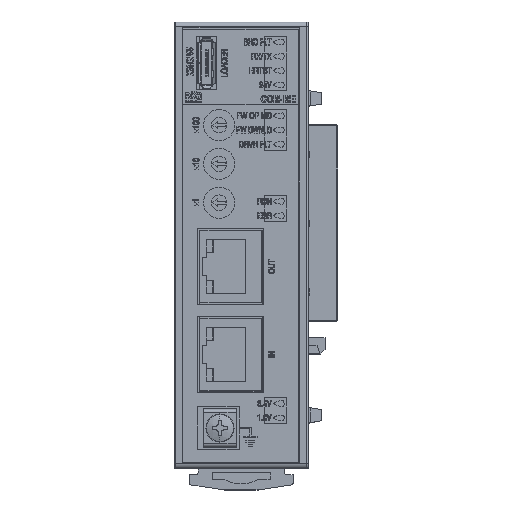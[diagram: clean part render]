
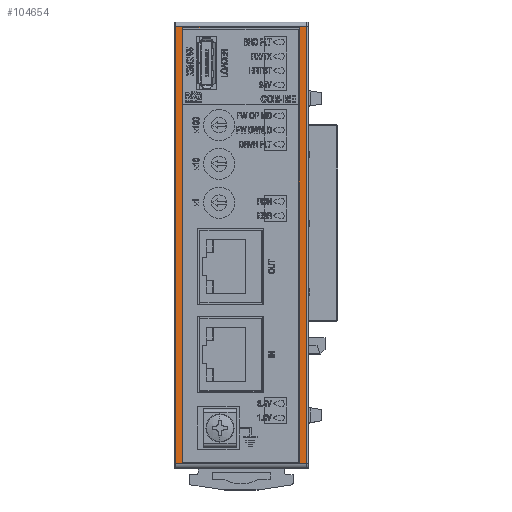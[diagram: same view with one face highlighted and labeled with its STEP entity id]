
A CAD part, top view. The second image highlights one B-rep face of the part: STEP entity #104654.
In plain terms, the highlighted planar face has unit normal (0, 0, 1).
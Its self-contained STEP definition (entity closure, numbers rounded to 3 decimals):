
#1578 = LINE ( 'NONE', #3509, #84479 ) ;
#2283 = EDGE_CURVE ( 'NONE', #33340, #67796, #137298, .T. ) ;
#3509 = CARTESIAN_POINT ( 'NONE',  ( -49.429, -54.921, 76.404 ) ) ;
#6230 = ORIENTED_EDGE ( 'NONE', *, *, #141500, .T. ) ;
#6498 = ORIENTED_EDGE ( 'NONE', *, *, #85931, .T. ) ;
#7221 = LINE ( 'NONE', #125982, #46005 ) ;
#8172 = DIRECTION ( 'NONE',  ( 0., 0., 1. ) ) ;
#10827 = LINE ( 'NONE', #40364, #101113 ) ;
#12200 = DIRECTION ( 'NONE',  ( 1., 0., 0. ) ) ;
#12469 = CARTESIAN_POINT ( 'NONE',  ( -21.629, -55.221, 76.404 ) ) ;
#13734 = CARTESIAN_POINT ( 'NONE',  ( -21.379, -55.221, 76.404 ) ) ;
#14328 = EDGE_CURVE ( 'NONE', #61245, #139039, #10827, .T. ) ;
#15270 = CARTESIAN_POINT ( 'NONE',  ( -21.629, 42.779, 76.404 ) ) ;
#18161 = VECTOR ( 'NONE', #132055, 1000. ) ;
#20745 = VERTEX_POINT ( 'NONE', #32009 ) ;
#24802 = CARTESIAN_POINT ( 'NONE',  ( -51.129, 42.779, 76.404 ) ) ;
#27741 = LINE ( 'NONE', #13734, #47991 ) ;
#29866 = CARTESIAN_POINT ( 'NONE',  ( -49.429, 42.479, 76.404 ) ) ;
#32009 = CARTESIAN_POINT ( 'NONE',  ( -49.429, -54.921, 76.404 ) ) ;
#32144 = EDGE_CURVE ( 'NONE', #139039, #51593, #27741, .T. ) ;
#33340 = VERTEX_POINT ( 'NONE', #29866 ) ;
#40364 = CARTESIAN_POINT ( 'NONE',  ( -51.129, -55.221, 76.404 ) ) ;
#40365 = LINE ( 'NONE', #120183, #18161 ) ;
#42430 = CARTESIAN_POINT ( 'NONE',  ( -51.379, 42.779, 76.404 ) ) ;
#46005 = VECTOR ( 'NONE', #68862, 1000. ) ;
#46828 = ORIENTED_EDGE ( 'NONE', *, *, #32144, .T. ) ;
#47089 = VECTOR ( 'NONE', #60006, 1000. ) ;
#47991 = VECTOR ( 'NONE', #12200, 1000. ) ;
#49053 = EDGE_LOOP ( 'NONE', ( #105969, #6498, #6230, #49629 ) ) ;
#49486 = VECTOR ( 'NONE', #143711, 1000. ) ;
#49629 = ORIENTED_EDGE ( 'NONE', *, *, #61585, .T. ) ;
#51593 = VERTEX_POINT ( 'NONE', #12469 ) ;
#53091 = ORIENTED_EDGE ( 'NONE', *, *, #14328, .T. ) ;
#60006 = DIRECTION ( 'NONE',  ( 1., 0., 0. ) ) ;
#60431 = CARTESIAN_POINT ( 'NONE',  ( -23.329, 42.479, 76.404 ) ) ;
#61245 = VERTEX_POINT ( 'NONE', #24802 ) ;
#61585 = EDGE_CURVE ( 'NONE', #20745, #33340, #1578, .T. ) ;
#64389 = AXIS2_PLACEMENT_3D ( 'NONE', #66912, #8172, #65397 ) ;
#65082 = FACE_BOUND ( 'NONE', #49053, .T. ) ;
#65397 = DIRECTION ( 'NONE',  ( 1., 0., 0. ) ) ;
#66912 = CARTESIAN_POINT ( 'NONE',  ( -51.379, -56.221, 76.404 ) ) ;
#67350 = EDGE_CURVE ( 'NONE', #51593, #103201, #114761, .T. ) ;
#67796 = VERTEX_POINT ( 'NONE', #60431 ) ;
#68862 = DIRECTION ( 'NONE',  ( 0., -1., 0. ) ) ;
#76337 = DIRECTION ( 'NONE',  ( 0., -1., 0. ) ) ;
#77718 = PLANE ( 'NONE',  #64389 ) ;
#83591 = ORIENTED_EDGE ( 'NONE', *, *, #102996, .T. ) ;
#84479 = VECTOR ( 'NONE', #132235, 1000. ) ;
#85931 = EDGE_CURVE ( 'NONE', #67796, #130470, #7221, .T. ) ;
#93073 = CARTESIAN_POINT ( 'NONE',  ( -23.329, -54.921, 76.404 ) ) ;
#96580 = EDGE_LOOP ( 'NONE', ( #83591, #53091, #46828, #116282 ) ) ;
#97619 = DIRECTION ( 'NONE',  ( 0., 1., 0. ) ) ;
#99199 = LINE ( 'NONE', #42430, #49486 ) ;
#101113 = VECTOR ( 'NONE', #76337, 1000. ) ;
#102996 = EDGE_CURVE ( 'NONE', #103201, #61245, #99199, .T. ) ;
#103201 = VERTEX_POINT ( 'NONE', #147122 ) ;
#104654 = ADVANCED_FACE ( 'NONE', ( #109204, #65082 ), #77718, .T. ) ;
#105969 = ORIENTED_EDGE ( 'NONE', *, *, #2283, .T. ) ;
#109204 = FACE_OUTER_BOUND ( 'NONE', #96580, .T. ) ;
#114761 = LINE ( 'NONE', #15270, #146138 ) ;
#116282 = ORIENTED_EDGE ( 'NONE', *, *, #67350, .T. ) ;
#119155 = CARTESIAN_POINT ( 'NONE',  ( -49.429, 42.479, 76.404 ) ) ;
#120183 = CARTESIAN_POINT ( 'NONE',  ( -23.329, -54.921, 76.404 ) ) ;
#125982 = CARTESIAN_POINT ( 'NONE',  ( -23.329, 42.479, 76.404 ) ) ;
#130470 = VERTEX_POINT ( 'NONE', #93073 ) ;
#132047 = CARTESIAN_POINT ( 'NONE',  ( -51.129, -55.221, 76.404 ) ) ;
#132055 = DIRECTION ( 'NONE',  ( -1., 0., 0. ) ) ;
#132235 = DIRECTION ( 'NONE',  ( 0., 1., 0. ) ) ;
#137298 = LINE ( 'NONE', #119155, #47089 ) ;
#139039 = VERTEX_POINT ( 'NONE', #132047 ) ;
#141500 = EDGE_CURVE ( 'NONE', #130470, #20745, #40365, .T. ) ;
#143711 = DIRECTION ( 'NONE',  ( -1., 0., 0. ) ) ;
#146138 = VECTOR ( 'NONE', #97619, 1000. ) ;
#147122 = CARTESIAN_POINT ( 'NONE',  ( -21.629, 42.779, 76.404 ) ) ;
